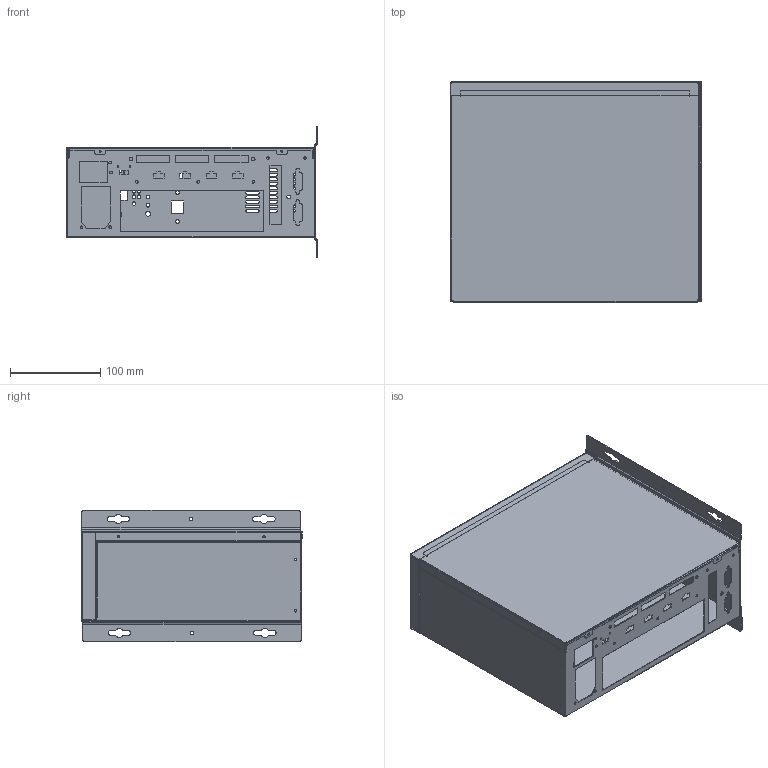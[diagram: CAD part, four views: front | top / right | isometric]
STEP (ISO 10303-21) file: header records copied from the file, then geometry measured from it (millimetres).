
FILE_DESCRIPTION (( 'STEP AP203' ), '1' );
FILE_NAME ('PK-601G.STEP', '2021-03-26T08:58:26', ( 'User' ), ( 'China' ), 'SwSTEP 2.0', 'SolidWorks 2016', '' );
FILE_SCHEMA (( 'CONFIG_CONTROL_DESIGN' ));
Length unit declared in the file: millimetre
Products named in the file (4): 錨璃1; 錨璃3; 錨璃2; PK-601G
Assembly tree (4 placements, depth 2):
  PK-601G
    錨璃1
    錨璃3  x2
    錨璃2
Bounding box: 277.45 x 244.35 x 145.15 mm (x, y, z)
Volume: 249758.6 mm3; surface area: 500550.7 mm2
Topology: 4 solids, 4 shells, 712 faces, 1940 edges, 1236 vertices
Faces by surface type: plane 405, cylinder 307
Entity records: 21754 total; most frequent: DIRECTION 3714, CARTESIAN_POINT 3643, ORIENTED_EDGE 3624, EDGE_CURVE 1812, VECTOR 1244, LINE 1244, AXIS2_PLACEMENT_3D 1235, VERTEX_POINT 1156
